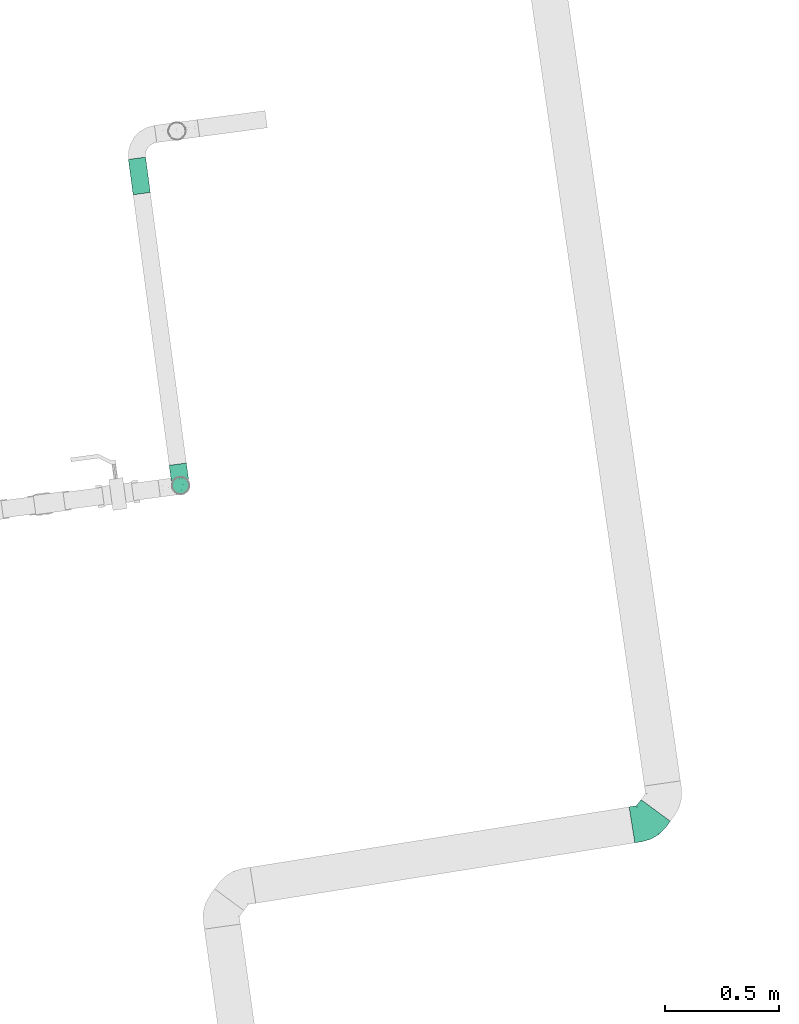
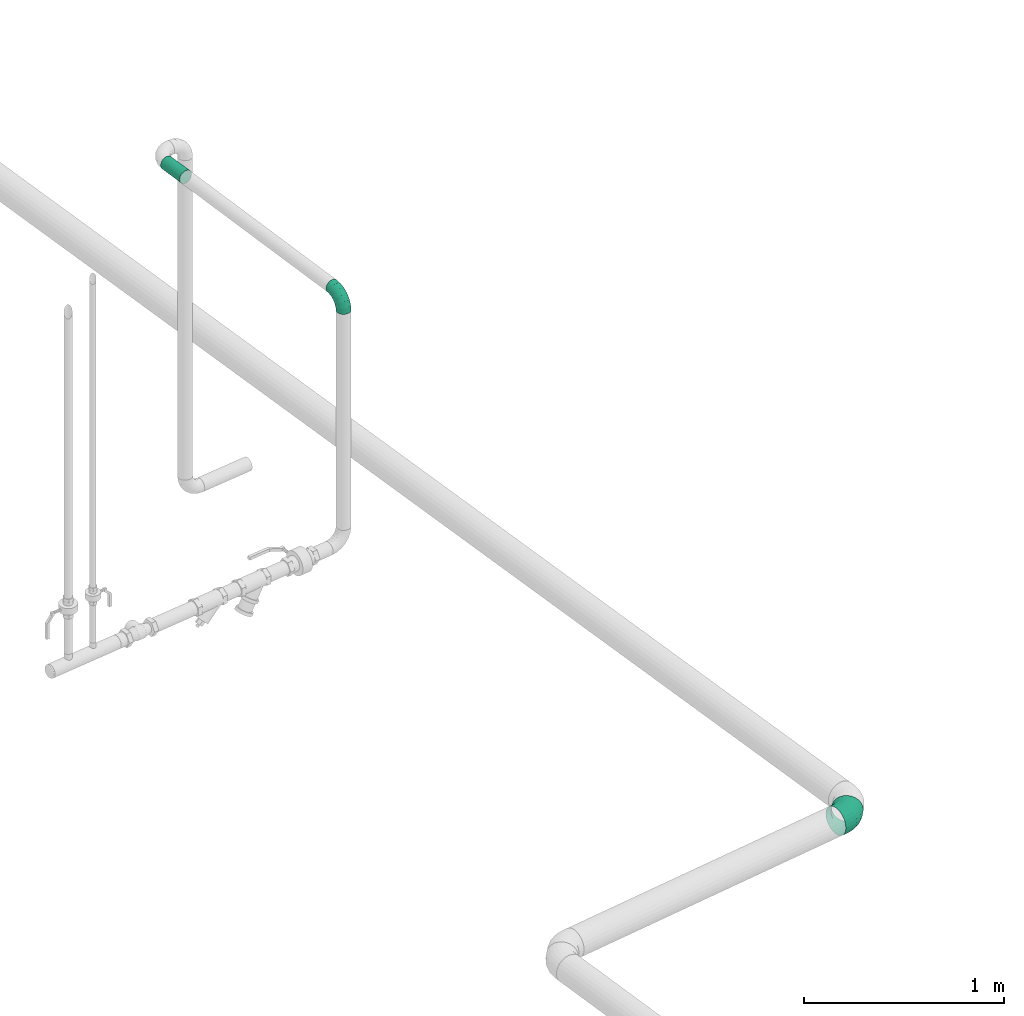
# One storey, part 334 of 374: 2 flow segments, 1 flow fitting.
"""IFC2X3 building model written with IfcOpenShell, lengths in metres."""

from ifc_helpers import new_model, si_unit, direction, origin, place, context, subcontext, project, spatial, open_shell, surface_model, source, transform, mapped, element, save


model = new_model("IFC2X3")

# Units and contexts
model_context = context("Model", 3, precision=1e-05, world=origin(), true_north=direction((-0.4480736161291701, 0.8939966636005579)))
body_context = subcontext(model_context, "Body", "Model", "MODEL_VIEW")
ifc_project = project(units=[si_unit("LENGTHUNIT", "METRE"), si_unit("AREAUNIT", "SQUARE_METRE"), si_unit("VOLUMEUNIT", "CUBIC_METRE"), si_unit("PLANEANGLEUNIT", "RADIAN"), si_unit("THERMODYNAMICTEMPERATUREUNIT", "KELVIN"), si_unit("MASSUNIT", "GRAM", prefix="KILO"), si_unit("TIMEUNIT", "SECOND")], contexts=[model_context])

# Site, building, storey
site_placement = place(None, origin())
site = spatial("IfcSite", under=ifc_project, at=site_placement, Name="Site 1", CompositionType="ELEMENT")
building_placement = place(site_placement, origin())
building = spatial("IfcBuilding", under=site, at=building_placement, Name="Undefined", CompositionType="ELEMENT")
storey_placement = place(building_placement, origin())
storey = spatial("IfcBuildingStorey", under=building, at=storey_placement, Name="Rez de chauss\x8ee", CompositionType="ELEMENT", Elevation=0.0)

# Flow fitting
shared_shape_1 = source(origin(), body_context, "Body", "SurfaceModel", [
    surface_model("IfcFaceBasedSurfaceModel", [(0.03310000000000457, 8.8817842e-16, 0.0), (0.03310000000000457, 0.02088419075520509, -4.4408921e-16), (0.0, 0.020884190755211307, 0.0), (0.0, 0.0, 0.0), (0.03310000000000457, 0.041056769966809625, -0.005405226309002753), (0.0, 0.04105676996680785, -0.005405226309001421), (0.03309999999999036, 0.059143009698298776, -0.015847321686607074), (0.0, 0.05914300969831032, -0.015847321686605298), (0.03310000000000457, 0.073910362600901, -0.030614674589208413), (0.0, 0.07391036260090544, -0.030614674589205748), (0.03310000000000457, 0.08435245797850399, -0.04870091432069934), (0.0, 0.0843524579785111, -0.048700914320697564), (0.03309999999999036, 0.08975768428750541, -0.0688734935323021), (0.0, 0.08975768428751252, -0.06887349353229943), (0.03310000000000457, 0.08975768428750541, -0.08975768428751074), (0.0, 0.08975768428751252, -0.08975768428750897), (0.03310000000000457, 0.08435245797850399, -0.10993026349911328), (0.0, 0.0843524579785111, -0.10993026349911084), (0.03309999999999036, 0.07391036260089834, -0.12801650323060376), (0.0, 0.07391036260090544, -0.12801650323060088), (0.03310000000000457, 0.05914300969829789, -0.14278385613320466), (0.0, 0.05914300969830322, -0.1427838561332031), (0.03310000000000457, 0.04105676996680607, -0.15322595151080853), (0.0, 0.04105676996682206, -0.15322595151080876), (0.03310000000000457, 0.020884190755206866, -0.15863117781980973), (0.0, 0.020884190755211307, -0.15863117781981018), (0.03310000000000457, -5.329070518e-15, -0.15863117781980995), (0.0, 7.105427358e-15, -0.15863117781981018), (0.03309999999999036, -0.0201725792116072, -0.15322595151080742), (0.0, -0.020172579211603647, -0.15322595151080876), (0.03310000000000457, -0.038258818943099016, -0.1427838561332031), (0.0, -0.038258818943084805, -0.14278385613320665), (0.03309999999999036, -0.053026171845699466, -0.12801650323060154), (0.0, -0.05302617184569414, -0.12801650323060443), (0.03310000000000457, -0.06346826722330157, -0.10993026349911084), (0.0, -0.06346826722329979, -0.10993026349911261), (0.03310000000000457, -0.06887349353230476, -0.08975768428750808), (0.0, -0.06887349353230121, -0.08975768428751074), (0.03310000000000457, -0.06887349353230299, -0.06887349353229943), (0.0, -0.06887349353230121, -0.06887349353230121), (0.03309999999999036, -0.06346826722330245, -0.048700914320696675), (0.0, -0.06346826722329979, -0.04870091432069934), (0.03310000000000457, -0.05302617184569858, -0.030614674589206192), (0.0, -0.05302617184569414, -0.0306146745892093), (0.03309999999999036, -0.03825881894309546, -0.015847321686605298), (0.0, -0.03825881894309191, -0.015847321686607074), (0.03310000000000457, -0.020172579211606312, -0.005405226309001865), (0.0, -0.020172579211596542, -0.005405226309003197), (-0.040320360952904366, 0.08454634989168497, -0.09044376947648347), (-0.041019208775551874, 0.08445602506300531, -0.06957147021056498), (-0.07794560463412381, 0.06926068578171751, -0.09245616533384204), (-0.07929658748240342, 0.06890542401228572, -0.07161874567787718), (-0.11036076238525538, 0.04492242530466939, -0.09566035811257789), (-0.1122735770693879, 0.04414532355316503, -0.07487847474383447), (-0.038271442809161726, 0.07940594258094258, -0.11058148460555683), (-0.07398472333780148, 0.06489703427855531, -0.11249161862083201), (-0.1047526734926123, 0.04179554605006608, -0.11553298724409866), (-0.03501208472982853, 0.06938511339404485, -0.12861226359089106), (-0.06768387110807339, 0.056111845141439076, -0.1303597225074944), (-0.09583149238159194, 0.03497777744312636, -0.13314207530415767), (-0.03076440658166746, 0.05516676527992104, -0.1433073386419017), (-0.059472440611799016, 0.043503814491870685, -0.1448427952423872), (-0.08420518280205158, 0.024933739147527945, -0.1472875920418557), (-0.025817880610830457, 0.03771985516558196, -0.15366526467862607), (-0.049910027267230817, 0.02793215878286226, -0.15495383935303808), (-0.07066605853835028, 0.012347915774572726, -0.15700554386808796), (-0.020509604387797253, 0.01823336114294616, -0.15898016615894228), (-0.03964829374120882, 0.01045806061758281, -0.16000380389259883), (-0.05613678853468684, -0.001921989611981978, -0.16163366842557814), (-0.015201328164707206, -0.00196474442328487, -0.15888984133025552), (-0.029386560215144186, -0.007727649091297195, -0.15964854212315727), (-0.04160751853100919, -0.016903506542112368, -0.1608565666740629), (-0.010254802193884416, -0.021497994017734, -0.1534004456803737), (-0.019824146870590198, -0.02538564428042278, -0.15391226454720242), (-0.028068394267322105, -0.03157566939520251, -0.15472719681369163), (-0.0060071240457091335, -0.03903522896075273, -0.14288607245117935), (-0.011612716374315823, -0.04131256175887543, -0.14318588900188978), (-0.01644208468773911, -0.04493859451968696, -0.14366326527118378), (-0.0027477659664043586, -0.05338131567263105, -0.1280632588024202), (-0.005311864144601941, -0.05442300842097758, -0.12820040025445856), (-0.007520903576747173, -0.05608162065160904, -0.1284187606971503), (-0.0006988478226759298, -0.06355859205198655, -0.10994215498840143), (-0.0013509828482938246, -0.0638235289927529, -0.1099770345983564), (-0.0019128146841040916, -0.06424536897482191, -0.11003257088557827), (-0.0006988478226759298, -0.06896381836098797, -0.06888538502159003), (-0.0013509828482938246, -0.06922875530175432, -0.06892026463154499), (-0.0019128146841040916, -0.06965059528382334, -0.06897580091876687), (-0.0027477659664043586, -0.06382341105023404, -0.04874766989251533), (-0.005311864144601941, -0.06486510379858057, -0.04888481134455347), (-0.007520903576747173, -0.06652371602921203, -0.049103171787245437), (-0.0060071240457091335, -0.053802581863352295, -0.03071689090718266), (-0.011612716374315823, -0.056079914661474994, -0.031016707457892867), (-0.01644208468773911, -0.05970594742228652, -0.03149408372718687), (-0.010254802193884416, -0.039584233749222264, -0.016021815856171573), (-0.019824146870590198, -0.043471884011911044, -0.01653363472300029), (-0.028068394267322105, -0.04966190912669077, -0.0173485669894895), (-0.015201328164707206, -0.022137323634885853, -0.005663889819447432), (-0.029386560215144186, -0.027900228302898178, -0.006422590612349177), (-0.04160751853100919, -0.03707608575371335, -0.007630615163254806), (-0.020509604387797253, -0.0026508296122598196, -0.00034898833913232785), (-0.03964829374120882, -0.010426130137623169, -0.001372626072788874), (-0.05613678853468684, -0.022806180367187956, -0.003002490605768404), (-0.025817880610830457, 0.01754727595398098, -0.00043931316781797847), (-0.049910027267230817, 0.007759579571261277, -0.0017278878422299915), (-0.07066605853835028, -0.007824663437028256, -0.0037795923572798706), (-0.03076440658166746, 0.037080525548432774, -0.0059287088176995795), (-0.059472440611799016, 0.025417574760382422, -0.007464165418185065), (-0.08420518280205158, 0.006847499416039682, -0.009908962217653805), (-0.03501208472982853, 0.05461776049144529, -0.016443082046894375), (-0.06768387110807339, 0.041344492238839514, -0.018190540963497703), (-0.09583149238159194, 0.020210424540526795, -0.020972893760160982), (-0.038271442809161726, 0.06896384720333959, -0.031265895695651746), (-0.07398472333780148, 0.05445493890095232, -0.033176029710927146), (-0.1047526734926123, 0.03135345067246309, -0.036217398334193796), (-0.040320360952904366, 0.07914112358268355, -0.04938699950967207), (-0.07794560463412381, 0.06385545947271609, -0.05139939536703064), (-0.11036076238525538, 0.03951719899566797, -0.05460358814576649), (-0.13394328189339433, 0.021894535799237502, -0.09869203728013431), (-0.13585609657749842, 0.02111743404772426, -0.07791015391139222), (-0.12833519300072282, 0.018767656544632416, -0.11856466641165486), (-0.11941401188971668, 0.011949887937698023, -0.1361737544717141), (-0.10778770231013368, 0.0019058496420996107, -0.1503192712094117), (-0.09424857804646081, -0.010679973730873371, -0.16003722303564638), (-0.07971930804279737, -0.024949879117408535, -0.16466534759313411), (-0.06519003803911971, -0.03993139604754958, -0.16388824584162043), (-0.05165091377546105, -0.05460355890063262, -0.15775887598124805), (-0.040024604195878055, -0.0679664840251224, -0.1466949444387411), (-0.031103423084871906, -0.07910951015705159, -0.13145043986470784), (-0.025495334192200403, -0.08727325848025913, -0.11306425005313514), (-0.02358251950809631, -0.09190138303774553, -0.09278936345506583), (-0.025495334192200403, -0.09267848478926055, -0.07200748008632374), (-0.031103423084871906, -0.08955160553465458, -0.05213485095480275), (-0.040024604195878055, -0.08273383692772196, -0.03452576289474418), (-0.05165091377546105, -0.07268979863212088, -0.020380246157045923), (-0.06519003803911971, -0.060103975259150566, -0.010662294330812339), (-0.07971930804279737, -0.045834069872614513, -0.006034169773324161), (-0.09424857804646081, -0.030852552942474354, -0.006811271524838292), (-0.10778770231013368, -0.016180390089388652, -0.012940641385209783), (-0.11941401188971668, -0.0028174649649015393, -0.024004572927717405), (-0.12833519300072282, 0.008325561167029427, -0.039249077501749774), (-0.13394328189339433, 0.01648930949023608, -0.05763526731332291)], [open_shell([[[0, 1, 2, 3]], [[1, 4, 5, 2]], [[4, 6, 7, 5]], [[6, 8, 9, 7]], [[8, 10, 11, 9]], [[10, 12, 13, 11]], [[12, 14, 15, 13]], [[14, 16, 17, 15]], [[16, 18, 19, 17]], [[18, 20, 21, 19]], [[20, 22, 23, 21]], [[22, 24, 25, 23]], [[24, 26, 27, 25]], [[26, 28, 29, 27]], [[28, 30, 31, 29]], [[30, 32, 33, 31]], [[32, 34, 35, 33]], [[34, 36, 37, 35]], [[36, 38, 39, 37]], [[38, 40, 41, 39]], [[40, 42, 43, 41]], [[42, 44, 45, 43]], [[44, 46, 47, 45]], [[46, 0, 3, 47]], [[13, 15, 48, 49]], [[49, 48, 50, 51]], [[51, 50, 52, 53]], [[15, 17, 54, 48]], [[48, 54, 55, 50]], [[50, 55, 56, 52]], [[17, 19, 57, 54]], [[54, 57, 58, 55]], [[55, 58, 59, 56]], [[19, 21, 60, 57]], [[57, 60, 61, 58]], [[58, 61, 62, 59]], [[21, 23, 63, 60]], [[60, 63, 64, 61]], [[61, 64, 65, 62]], [[23, 25, 66, 63]], [[63, 66, 67, 64]], [[64, 67, 68, 65]], [[25, 27, 69, 66]], [[66, 69, 70, 67]], [[67, 70, 71, 68]], [[27, 29, 72, 69]], [[69, 72, 73, 70]], [[70, 73, 74, 71]], [[29, 31, 75, 72]], [[72, 75, 76, 73]], [[73, 76, 77, 74]], [[31, 33, 78, 75]], [[75, 78, 79, 76]], [[76, 79, 80, 77]], [[33, 35, 81, 78]], [[78, 81, 82, 79]], [[79, 82, 83, 80]], [[35, 37, 81]], [[81, 37, 82]], [[82, 37, 83]], [[37, 39, 84]], [[37, 84, 85]], [[37, 85, 86]], [[39, 41, 87, 84]], [[84, 87, 88, 85]], [[85, 88, 89, 86]], [[41, 43, 90, 87]], [[87, 90, 91, 88]], [[88, 91, 92, 89]], [[43, 45, 93, 90]], [[90, 93, 94, 91]], [[91, 94, 95, 92]], [[45, 47, 96, 93]], [[93, 96, 97, 94]], [[94, 97, 98, 95]], [[47, 3, 99, 96]], [[96, 99, 100, 97]], [[97, 100, 101, 98]], [[3, 2, 102, 99]], [[99, 102, 103, 100]], [[100, 103, 104, 101]], [[2, 5, 105, 102]], [[102, 105, 106, 103]], [[103, 106, 107, 104]], [[5, 7, 108, 105]], [[105, 108, 109, 106]], [[106, 109, 110, 107]], [[7, 9, 111, 108]], [[108, 111, 112, 109]], [[109, 112, 113, 110]], [[9, 11, 114, 111]], [[111, 114, 115, 112]], [[112, 115, 116, 113]], [[11, 13, 49, 114]], [[114, 49, 51, 115]], [[115, 51, 53, 116]], [[53, 52, 117, 118]], [[52, 56, 119, 117]], [[56, 59, 120, 119]], [[59, 62, 121, 120]], [[62, 65, 122, 121]], [[65, 68, 123, 122]], [[68, 71, 124, 123]], [[71, 74, 125, 124]], [[74, 77, 126, 125]], [[77, 80, 127, 126]], [[80, 83, 128, 127]], [[83, 37, 129, 128]], [[37, 86, 130, 129]], [[86, 89, 131, 130]], [[89, 92, 132, 131]], [[92, 95, 133, 132]], [[95, 98, 134, 133]], [[98, 101, 135, 134]], [[101, 104, 136, 135]], [[104, 107, 137, 136]], [[107, 110, 138, 137]], [[110, 113, 139, 138]], [[113, 116, 140, 139]], [[116, 53, 118, 140]]])]),
])
flow_fitting_placement = place(storey_placement, origin())
element("IfcFlowFitting", 1, at=flow_fitting_placement, inside=storey, Name="PE-HD coude 45°", ObjectType="PE-HD coude 45°", context=body_context, shape_type="MappedRepresentation", body=[
    mapped(shared_shape_1, transform((69.67725242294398, 19.08335072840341, -0.713587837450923), x_axis=(-0.9875297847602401, -0.1574322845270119, 0.0), y_axis=(0.15608542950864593, -0.979081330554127, -0.130526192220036), z_axis=(0.020549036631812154, -0.12889850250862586, 0.9914448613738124))),
])

# Flow segments
shared_shape_2 = source(origin(), body_context, "Body", "SurfaceModel", [
    surface_model("IfcFaceBasedSurfaceModel", [(0.034733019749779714, -1.776356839e-15, 1.776356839e-15), (0.03456378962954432, 0.009931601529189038, 5.329070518e-15), (0.00016923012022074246, 0.009931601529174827, -1.33226763e-15), (0.0, 0.0, 0.0), (-0.033053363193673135, 0.011083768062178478, -0.008827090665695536), (-0.03354952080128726, 0.001163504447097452, -0.00891395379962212), (-0.06283992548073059, 0.0133095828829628, -0.025879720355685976), (-0.06362919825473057, 0.003411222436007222, -0.02613439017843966), (-0.08716055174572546, 0.01645736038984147, -0.04999578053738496), (-0.08818915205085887, 0.0065899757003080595, -0.05048776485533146), (-0.10435783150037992, 0.02031258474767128, -0.07953180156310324), (-0.10555566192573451, 0.010483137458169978, -0.08031443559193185), (-0.11325979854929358, 0.024612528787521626, -0.11247495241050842), (-0.11454522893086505, 0.01482539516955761, -0.11358176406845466), (0.034067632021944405, 0.01951912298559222, -0.0025492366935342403), (0.0006653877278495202, 0.0195191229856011, -0.002549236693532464), (-0.031598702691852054, 0.02063804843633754, -0.011121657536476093), (-0.06052589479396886, 0.022799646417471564, -0.027682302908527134), (-0.08414484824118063, 0.025856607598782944, -0.05110259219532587), (-0.10084597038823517, 0.029600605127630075, -0.07978647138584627), (-0.10949110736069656, 0.03377649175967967, -0.11177918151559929), (0.03327835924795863, 0.02810919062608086, -0.00747398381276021), (0.001454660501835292, 0.028109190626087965, -0.0074739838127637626), (-0.029284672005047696, 0.02917523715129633, -0.015641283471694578), (-0.05684480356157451, 0.031234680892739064, -0.03141929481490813), (-0.07934755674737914, 0.034147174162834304, -0.05373277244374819), (-0.09525940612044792, 0.03771423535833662, -0.08106108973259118), (-0.10349598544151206, 0.04169277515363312, -0.11154186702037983), (0.0322497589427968, 0.035116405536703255, -0.014438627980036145), (0.002483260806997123, 0.035116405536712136, -0.014438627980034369), (-0.02626896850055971, 0.036113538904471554, -0.02207796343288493), (-0.05204751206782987, 0.03803985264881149, -0.03683602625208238), (-0.07309560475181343, 0.040764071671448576, -0.05770707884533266), (-0.08797885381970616, 0.04410054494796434, -0.08326879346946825), (-0.0956829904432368, 0.04782189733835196, -0.11177918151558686), (0.031051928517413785, 0.04006323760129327, -0.0229685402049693), (0.0036810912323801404, 0.04006323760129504, -0.022968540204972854), (-0.022757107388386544, 0.04098011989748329, -0.029993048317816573), (-0.04646094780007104, 0.04275140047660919, -0.04356335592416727), (-0.06581505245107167, 0.045256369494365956, -0.06275466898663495), (-0.07950047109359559, 0.04832431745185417, -0.08625913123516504), (-0.08658456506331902, 0.05174616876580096, -0.1124749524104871), (0.02976649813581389, 0.042612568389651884, -0.03248242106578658), (0.004966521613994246, 0.042612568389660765, -0.03248242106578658), (-0.018988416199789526, 0.04344333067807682, -0.038847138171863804), (-0.040465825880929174, 0.04504824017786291, -0.05114282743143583), (-0.058002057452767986, 0.047317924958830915, -0.0685315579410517), (-0.0704020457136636, 0.05009770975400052, -0.08982831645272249), (-0.07682075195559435, 0.05319815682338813, -0.11358176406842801), (0.028481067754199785, 0.042590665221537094, -0.0423319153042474), (0.0062519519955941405, 0.042590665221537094, -0.04233191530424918), (-0.015219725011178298, 0.04333530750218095, -0.04803684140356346), (-0.03447070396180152, 0.04477384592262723, -0.05905791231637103), (-0.050189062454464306, 0.04680824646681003, -0.07464406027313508), (-0.061303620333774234, 0.049299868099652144, -0.09373311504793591), (-0.06705693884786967, 0.052078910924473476, -0.11502418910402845), (0.027283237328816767, 0.03999902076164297, -0.05184579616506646), (0.007449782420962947, 0.039999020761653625, -0.051845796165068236), (-0.011707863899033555, 0.04066341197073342, -0.05693589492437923), (-0.028884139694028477, 0.04194691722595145, -0.06676921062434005), (-0.042908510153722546, 0.043762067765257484, -0.08067561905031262), (-0.052825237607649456, 0.04598516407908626, -0.0977074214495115), (-0.0579585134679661, 0.048464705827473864, -0.1167039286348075), (0.026254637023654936, 0.03501425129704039, -0.06037570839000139), (0.008478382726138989, 0.035014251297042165, -0.06037570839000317), (-0.008692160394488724, 0.03560972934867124, -0.06493784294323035), (-0.024086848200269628, 0.0367601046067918, -0.07375121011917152), (-0.03665655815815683, 0.038386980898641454, -0.08621519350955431), (-0.045544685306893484, 0.040379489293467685, -0.10148039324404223), (-0.05014551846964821, 0.042601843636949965, -0.1185065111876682), (0.025465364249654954, 0.0279760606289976, -0.0673403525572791), (0.00926765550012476, 0.027976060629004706, -0.06734035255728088), (-0.00637812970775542, 0.028518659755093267, -0.07149736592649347), (-0.02040575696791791, 0.029566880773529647, -0.07952809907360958), (-0.03185926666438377, 0.031049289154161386, -0.09088527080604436), (-0.03995812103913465, 0.03286486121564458, -0.1047949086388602), (-0.04415039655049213, 0.03488986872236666, -0.12030909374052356), (0.02496920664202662, 0.019364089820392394, -0.07226509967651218), (0.009763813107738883, 0.019364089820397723, -0.07226509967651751), (-0.004923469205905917, 0.019873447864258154, -0.07616744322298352), (-0.018091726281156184, 0.020857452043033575, -0.0837061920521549), (-0.028843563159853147, 0.022249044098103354, -0.0943675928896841), (-0.03644625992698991, 0.023953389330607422, -0.10742508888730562), (-0.040381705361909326, 0.025854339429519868, -0.12198883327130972), (0.024799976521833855, 0.009765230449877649, -0.07481433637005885), (0.00993304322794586, 0.009765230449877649, -0.0748143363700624), (-0.004427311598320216, 0.010263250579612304, -0.07862981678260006), (-0.01730245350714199, 0.011225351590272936, -0.08600075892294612), (-0.027814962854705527, 0.012585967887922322, -0.0964248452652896), (-0.035248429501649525, 0.014252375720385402, -0.10919169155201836), (-0.039096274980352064, 0.01611101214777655, -0.12343125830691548), (0.024969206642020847, -0.00016637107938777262, -0.07481433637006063), (0.009763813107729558, -0.00016637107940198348, -0.07481433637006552), (-0.004923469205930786, 0.00034298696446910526, -0.07871667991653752), (-0.018091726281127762, 0.0013269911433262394, -0.0862554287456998), (-0.028843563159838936, 0.0027185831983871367, -0.09691682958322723), (-0.03644625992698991, 0.004422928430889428, -0.10997432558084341), (-0.04038170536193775, 0.006323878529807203, -0.12453806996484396), (0.025465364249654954, -0.009753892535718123, -0.07226509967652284), (0.00926765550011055, -0.00975389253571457, -0.07226509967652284), (-0.00637812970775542, -0.009211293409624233, -0.0764221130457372), (-0.02040575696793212, -0.008163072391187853, -0.08445284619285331), (-0.03185926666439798, -0.006680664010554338, -0.09581001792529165), (-0.03995812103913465, -0.004865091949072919, -0.10971965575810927), (-0.044150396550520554, -0.0028400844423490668, -0.1252338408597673), (0.026254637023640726, -0.018343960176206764, -0.06734035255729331), (0.008478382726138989, -0.018343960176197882, -0.06734035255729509), (-0.008692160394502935, -0.017748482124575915, -0.0719024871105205), (-0.02408684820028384, -0.016598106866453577, -0.08071585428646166), (-0.03665655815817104, -0.01497123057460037, -0.09317983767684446), (-0.045544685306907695, -0.012978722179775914, -0.10844503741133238), (-0.05014551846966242, -0.01075636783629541, -0.1254711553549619), (0.027283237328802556, -0.02535117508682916, -0.06037570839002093), (0.007449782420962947, -0.025351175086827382, -0.06037570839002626), (-0.011707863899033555, -0.02468678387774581, -0.0654658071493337), (-0.028884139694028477, -0.023403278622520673, -0.07529912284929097), (-0.042908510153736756, -0.021588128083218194, -0.08920553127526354), (-0.052825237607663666, -0.019365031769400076, -0.10623733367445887), (-0.05795851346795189, -0.01688549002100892, -0.12523384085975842), (0.028481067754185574, -0.030298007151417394, -0.051845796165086), (0.0062519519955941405, -0.030298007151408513, -0.051845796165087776), (-0.015219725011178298, -0.0295533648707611, -0.05755072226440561), (-0.03447070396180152, -0.02811482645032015, -0.06857179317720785), (-0.05018906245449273, -0.026080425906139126, -0.08415794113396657), (-0.061303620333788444, -0.023588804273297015, -0.10324699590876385), (-0.06705693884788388, -0.020809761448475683, -0.12453806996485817), (0.02976649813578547, -0.03284733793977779, -0.042331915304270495), (0.004966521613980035, -0.03284733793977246, -0.04233191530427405), (-0.018988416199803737, -0.03201657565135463, -0.04869663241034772), (-0.040465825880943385, -0.030411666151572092, -0.06099232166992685), (-0.058002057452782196, -0.02814198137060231, -0.07838105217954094), (-0.07040204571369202, -0.025362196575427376, -0.09967781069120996), (-0.07682075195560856, -0.02226174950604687, -0.12343125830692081), (0.031051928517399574, -0.03282543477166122, -0.0324824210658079), (0.0036810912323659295, -0.03282543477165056, -0.03248242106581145), (-0.022757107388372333, -0.03190855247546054, -0.03950692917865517), (-0.04646094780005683, -0.030137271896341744, -0.05307723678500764), (-0.06581505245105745, -0.027632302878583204, -0.07226854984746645), (-0.07950047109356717, -0.024564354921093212, -0.09577301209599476), (-0.08658456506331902, -0.021142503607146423, -0.12198883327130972), (0.03224975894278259, -0.03023379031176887, -0.022968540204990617), (0.002483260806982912, -0.03023379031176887, -0.022968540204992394), (-0.026268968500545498, -0.02923665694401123, -0.03060787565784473), (-0.05204751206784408, -0.02731034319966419, -0.04536593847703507), (-0.07309560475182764, -0.02458612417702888, -0.06623699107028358), (-0.08797885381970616, -0.021249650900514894, -0.09179870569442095), (-0.09568299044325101, -0.017528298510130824, -0.12030909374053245), (0.03327835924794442, -0.025249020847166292, -0.014438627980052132), (0.0014546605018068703, -0.02524902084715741, -0.014438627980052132), (-0.02928467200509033, -0.024182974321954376, -0.022605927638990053), (-0.05684480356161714, -0.022123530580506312, -0.03838393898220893), (-0.07934755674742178, -0.019211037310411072, -0.060697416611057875), (-0.09525940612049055, -0.015643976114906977, -0.08802573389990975), (-0.1034959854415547, -0.011665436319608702, -0.11850651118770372), (0.034067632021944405, -0.018210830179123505, -0.007473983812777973), (0.0006653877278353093, -0.018210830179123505, -0.007473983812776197), (-0.031598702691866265, -0.017091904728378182, -0.01604640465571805), (-0.06052589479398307, -0.014930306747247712, -0.03260705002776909), (-0.08414484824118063, -0.011873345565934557, -0.05602733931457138), (-0.10084597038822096, -0.008129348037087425, -0.08471121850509), (-0.10949110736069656, -0.003953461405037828, -0.11670392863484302), (0.03456378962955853, -0.009598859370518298, -0.0025492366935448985), (0.00016923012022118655, -0.009598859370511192, -0.002549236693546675), (-0.033053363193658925, -0.00844669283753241, -0.011376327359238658), (-0.06283992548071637, -0.0062208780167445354, -0.028428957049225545), (-0.08716055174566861, -0.003073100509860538, -0.05254501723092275), (-0.1043578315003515, 0.0007821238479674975, -0.08208103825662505), (-0.11325979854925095, 0.005082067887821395, -0.11502418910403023), (0.0001692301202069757, -0.00959885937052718, -0.002549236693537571)], [open_shell([[[0, 1, 2, 3]], [[3, 2, 4, 5]], [[5, 4, 6, 7]], [[7, 6, 8, 9]], [[9, 8, 10, 11]], [[11, 10, 12, 13]], [[1, 14, 15, 2]], [[2, 15, 16, 4]], [[4, 16, 17, 6]], [[6, 17, 18, 8]], [[8, 18, 19, 10]], [[10, 19, 20, 12]], [[14, 21, 22, 15]], [[15, 22, 23, 16]], [[16, 23, 24, 17]], [[17, 24, 25, 18]], [[18, 25, 26, 19]], [[19, 26, 27, 20]], [[21, 28, 29, 22]], [[22, 29, 30, 23]], [[23, 30, 31, 24]], [[24, 31, 32, 25]], [[25, 32, 33, 26]], [[26, 33, 34, 27]], [[28, 35, 36, 29]], [[29, 36, 37, 30]], [[30, 37, 38, 31]], [[31, 38, 39, 32]], [[32, 39, 40, 33]], [[33, 40, 41, 34]], [[35, 42, 43, 36]], [[36, 43, 44, 37]], [[37, 44, 45, 38]], [[38, 45, 46, 39]], [[39, 46, 47, 40]], [[40, 47, 48, 41]], [[42, 49, 50, 43]], [[43, 50, 51, 44]], [[44, 51, 52, 45]], [[45, 52, 53, 46]], [[46, 53, 54, 47]], [[47, 54, 55, 48]], [[49, 56, 57, 50]], [[50, 57, 58, 51]], [[51, 58, 59, 52]], [[52, 59, 60, 53]], [[53, 60, 61, 54]], [[54, 61, 62, 55]], [[56, 63, 64, 57]], [[57, 64, 65, 58]], [[58, 65, 66, 59]], [[59, 66, 67, 60]], [[60, 67, 68, 61]], [[61, 68, 69, 62]], [[63, 70, 71, 64]], [[64, 71, 72, 65]], [[65, 72, 73, 66]], [[66, 73, 74, 67]], [[67, 74, 75, 68]], [[68, 75, 76, 69]], [[70, 77, 78, 71]], [[71, 78, 79, 72]], [[72, 79, 80, 73]], [[73, 80, 81, 74]], [[74, 81, 82, 75]], [[75, 82, 83, 76]], [[77, 84, 85, 78]], [[78, 85, 86, 79]], [[79, 86, 87, 80]], [[80, 87, 88, 81]], [[81, 88, 89, 82]], [[82, 89, 90, 83]], [[84, 91, 92, 85]], [[85, 92, 93, 86]], [[86, 93, 94, 87]], [[87, 94, 95, 88]], [[88, 95, 96, 89]], [[89, 96, 97, 90]], [[91, 98, 99, 92]], [[92, 99, 100, 93]], [[93, 100, 101, 94]], [[94, 101, 102, 95]], [[95, 102, 103, 96]], [[96, 103, 104, 97]], [[98, 105, 106, 99]], [[99, 106, 107, 100]], [[100, 107, 108, 101]], [[101, 108, 109, 102]], [[102, 109, 110, 103]], [[103, 110, 111, 104]], [[105, 112, 113, 106]], [[106, 113, 114, 107]], [[107, 114, 115, 108]], [[108, 115, 116, 109]], [[109, 116, 117, 110]], [[110, 117, 118, 111]], [[112, 119, 120, 113]], [[113, 120, 121, 114]], [[114, 121, 122, 115]], [[115, 122, 123, 116]], [[116, 123, 124, 117]], [[117, 124, 125, 118]], [[119, 126, 127, 120]], [[120, 127, 128, 121]], [[121, 128, 129, 122]], [[122, 129, 130, 123]], [[123, 130, 131, 124]], [[124, 131, 132, 125]], [[126, 133, 134, 127]], [[127, 134, 135, 128]], [[128, 135, 136, 129]], [[129, 136, 137, 130]], [[130, 137, 138, 131]], [[131, 138, 139, 132]], [[133, 140, 141, 134]], [[134, 141, 142, 135]], [[135, 142, 143, 136]], [[136, 143, 144, 137]], [[137, 144, 145, 138]], [[138, 145, 146, 139]], [[140, 147, 148, 141]], [[141, 148, 149, 142]], [[142, 149, 150, 143]], [[143, 150, 151, 144]], [[144, 151, 152, 145]], [[145, 152, 153, 146]], [[147, 154, 155, 148]], [[148, 155, 156, 149]], [[149, 156, 157, 150]], [[150, 157, 158, 151]], [[151, 158, 159, 152]], [[152, 159, 160, 153]], [[154, 161, 162, 155]], [[155, 162, 163, 156]], [[156, 163, 164, 157]], [[157, 164, 165, 158]], [[158, 165, 166, 159]], [[159, 166, 167, 160]], [[161, 0, 3, 162]], [[168, 3, 5, 163]], [[163, 5, 7, 164]], [[164, 7, 9, 165]], [[165, 9, 11, 166]], [[166, 11, 13, 167]]])]),
])
flow_segment_1_placement = place(storey_placement, origin())
element("IfcFlowSegment", 2, at=flow_segment_1_placement, inside=storey, Name="Tube coudé", ObjectType="Tube coudé", context=body_context, shape_type="MappedRepresentation", body=[
    mapped(shared_shape_2, transform((67.66747959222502, 20.534457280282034, 2.1484347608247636), x_axis=(0.017262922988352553, -0.1293795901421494, -0.9914448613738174), y_axis=(0.965906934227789, 0.25833775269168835, -0.01689378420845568), z_axis=(0.2583133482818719, -0.9573518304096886, 0.12942830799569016))),
])
shared_shape_3 = source(origin(), body_context, "Body", "SurfaceModel", [
    surface_model("IfcFaceBasedSurfaceModel", [(0.0, 0.009933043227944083, 0.0), (0.0, 0.0, 0.0), (0.15641555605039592, 0.0, 1.4210854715e-14), (0.1564155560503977, 0.009933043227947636, 1.4210854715e-14), (0.0, -0.009594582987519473, -0.002570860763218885), (0.15641555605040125, -0.009594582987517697, -0.0025708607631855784), (0.0, -0.018196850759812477, -0.007537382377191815), (0.15641555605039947, -0.0181968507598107, -0.007537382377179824), (0.0, -0.025220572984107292, -0.014561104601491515), (0.15641555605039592, -0.025220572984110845, -0.01456110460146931), (1.4210854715e-14, -0.030187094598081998, -0.023163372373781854), (0.1564155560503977, -0.030187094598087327, -0.02316337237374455), (0.0, -0.03275795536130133, -0.032757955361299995), (0.15641555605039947, -0.03275795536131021, -0.03275795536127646), (1.4210854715e-14, -0.03275795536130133, -0.0426909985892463), (0.15641555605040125, -0.032757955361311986, -0.04269099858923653), (0.0, -0.030187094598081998, -0.052285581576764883), (0.15641555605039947, -0.03018709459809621, -0.052285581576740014), (0.0, -0.02522057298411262, -0.06088784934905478), (0.15641555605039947, -0.025220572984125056, -0.060887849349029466), (0.0, -0.0181968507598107, -0.06791157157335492), (0.1564155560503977, -0.01819685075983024, -0.06791157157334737), (0.0, -0.009594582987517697, -0.07287809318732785), (0.15641555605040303, -0.009594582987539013, -0.0728780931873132), (0.0, -3.552713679e-15, -0.07544895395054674), (0.15641555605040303, -1.9539925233e-14, -0.0754489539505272), (0.0, 0.009933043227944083, -0.07544895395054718), (0.15641555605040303, 0.009933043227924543, -0.07544895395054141), (1.4210854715e-14, 0.019527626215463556, -0.07287809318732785), (0.1564155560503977, 0.01952762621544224, -0.07287809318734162), (0.0, 0.028129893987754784, -0.06791157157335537), (0.15641555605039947, 0.028129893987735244, -0.06791157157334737), (0.0, 0.03515361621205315, -0.06088784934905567), (0.15641555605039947, 0.035153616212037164, -0.06088784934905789), (0.0, 0.04012013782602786, -0.05228558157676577), (0.15641555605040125, 0.04012013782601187, -0.05228558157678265), (0.0, 0.04269099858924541, -0.04269099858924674), (0.15641555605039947, 0.042690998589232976, -0.04269099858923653), (0.0, 0.04269099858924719, -0.03275795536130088), (0.1564155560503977, 0.042690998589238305, -0.03275795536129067), (0.0, 0.04012013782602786, -0.0231633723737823), (0.15641555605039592, 0.04012013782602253, -0.023163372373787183), (0.0, 0.03515361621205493, -0.014561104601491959), (0.15641555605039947, 0.035153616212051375, -0.014561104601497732), (1.4210854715e-14, 0.028129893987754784, -0.007537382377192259), (0.15641555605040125, 0.028129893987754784, -0.007537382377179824), (7.105427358e-15, 0.019527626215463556, -0.0025708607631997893), (0.15641555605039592, 0.019527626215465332, -0.002570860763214)], [open_shell([[[0, 1, 2, 3]], [[1, 4, 5, 2]], [[4, 6, 7, 5]], [[6, 8, 9, 7]], [[8, 10, 11, 9]], [[10, 12, 13, 11]], [[12, 14, 15, 13]], [[14, 16, 17, 15]], [[16, 18, 19, 17]], [[18, 20, 21, 19]], [[20, 22, 23, 21]], [[22, 24, 25, 23]], [[24, 26, 27, 25]], [[26, 28, 29, 27]], [[28, 30, 31, 29]], [[30, 32, 33, 31]], [[32, 34, 35, 33]], [[34, 36, 37, 35]], [[36, 38, 39, 37]], [[38, 40, 41, 39]], [[40, 42, 43, 41]], [[42, 44, 45, 43]], [[44, 46, 47, 45]], [[46, 0, 3, 47]]])]),
])
flow_segment_2_placement = place(storey_placement, origin())
element("IfcFlowSegment", 3, at=flow_segment_2_placement, inside=storey, Name="Tube acier d'après DIN 2448", ObjectType="Tube acier d'après DIN 2448", context=body_context, shape_type="MappedRepresentation", body=[
    mapped(shared_shape_3, transform((67.45554469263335, 21.844939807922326, 2.2188469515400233), x_axis=(-0.13225639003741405, 0.9912155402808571, 0.0), y_axis=(-0.12937959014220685, -0.017262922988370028, -0.9914448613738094), z_axis=(-0.9827355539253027, -0.1311249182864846, 0.13052619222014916))),
])

save(model, "model.ifc")
